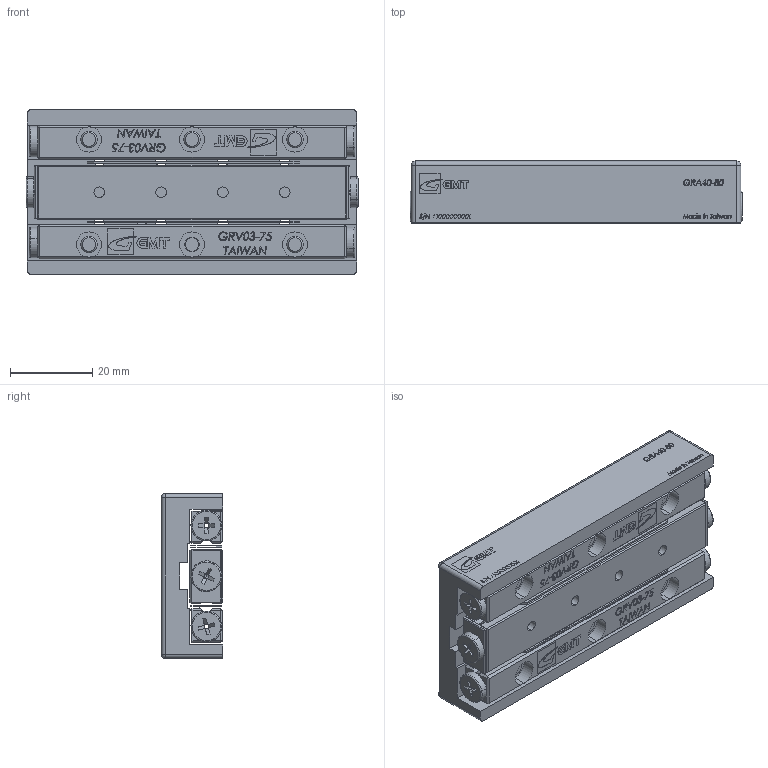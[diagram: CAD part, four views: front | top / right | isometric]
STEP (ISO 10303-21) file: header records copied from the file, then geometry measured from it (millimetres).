
FILE_DESCRIPTION (( 'STEP AP203' ), '1' );
FILE_NAME ('GRA40-80.STEP', '2012-10-19T05:28:53', ( '123' ), ( '' ), 'SwSTEP 2.0', 'SolidWorks 2012', '' );
FILE_SCHEMA (( 'CONFIG_CONTROL_DESIGN' ));
Products named in the file (1): GRA40-80
Bounding box: 80.6 x 15 x 40 mm (x, y, z)
Surface area: 20570.5 mm2 (no closed solid volume)
Topology: 0 solids, 66 shells, 764 faces, 3752 edges, 2938 vertices
Faces by surface type: plane 549, cylinder 99, cone 54, torus 36, bspline 22, sphere 4
Entity records: 44115 total; most frequent: CARTESIAN_POINT 15673, DIRECTION 5392, ORIENTED_EDGE 5151, EDGE_CURVE 3732, VERTEX_POINT 2938, VECTOR 2482, LINE 2482, AXIS2_PLACEMENT_3D 1455
